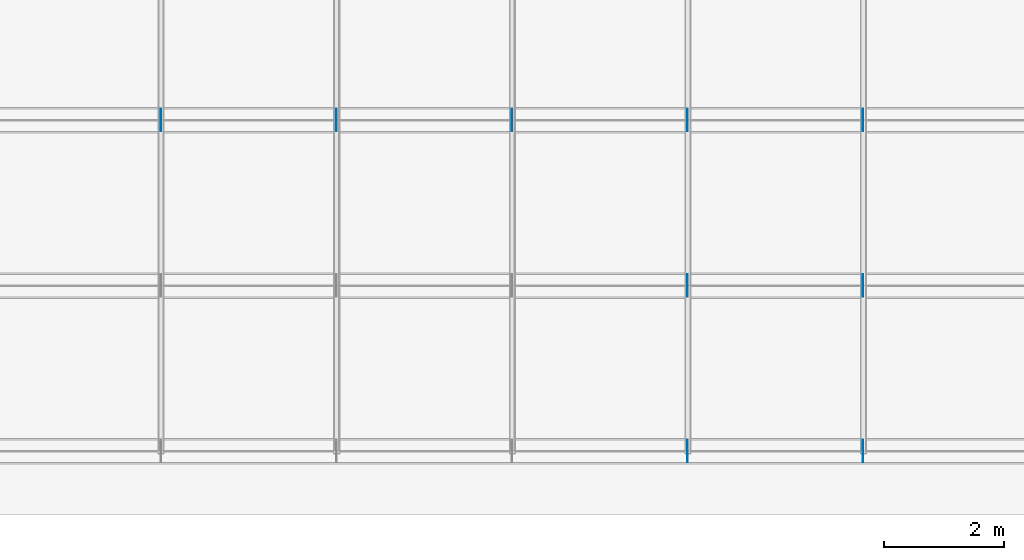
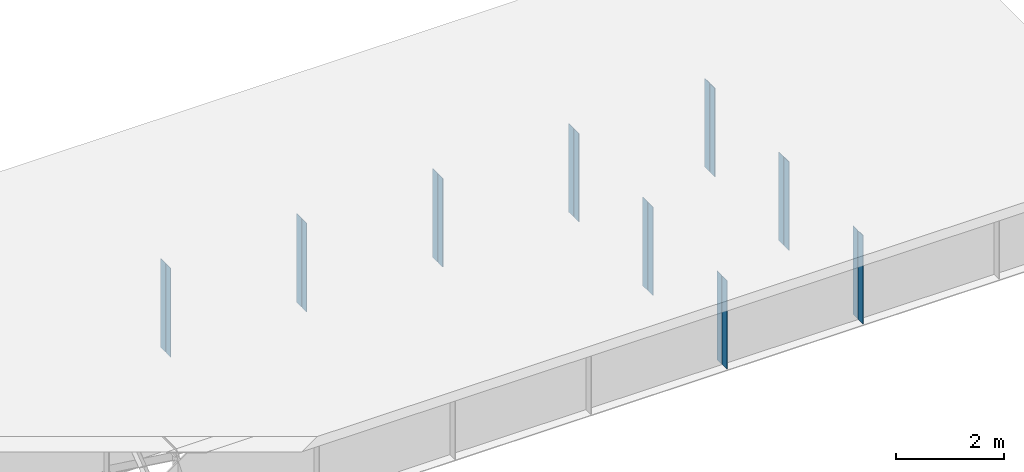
# One storey, part 10 of 13: 18 plates.
"""IFC4 building model written with IfcOpenShell, lengths in metres."""

import ifcopenshell
import ifcopenshell.guid

model = None  # the IFC model being written
_history = None  # IfcOwnerHistory: only IFC2X3 demands one
_inside = {}  # id of a spatial element -> (the spatial element, [elements in it])
_under = {}  # id of a project, library or spatial element -> (it, [spatial elements below it])
_declared = {}  # id of a project -> (the project, [libraries it declares])
_typed = {}  # id of a type object -> (the type object, [elements of that type])
_made_of = {}  # id of a material, layer set ... -> (it, [elements and type objects made of it])


def new_model(schema):
    """Start an empty IFC model of exactly this schema.

    Asked for "IFC4X3", IfcOpenShell would pick the latest addendum, in which some entities
    have other attributes; the version numbers below select the first issue.
    IFC2X3 requires an IfcOwnerHistory on every rooted entity: one is made here for all.
    """
    global model, _history
    if schema == "IFC4X3":
        model = ifcopenshell.file(schema_version=(4, 3, 0, 0))
    else:
        model = ifcopenshell.file(schema=schema)
    _inside.clear()
    _under.clear()
    _declared.clear()
    _typed.clear()
    _made_of.clear()
    _history = None
    if model.schema == "IFC2X3":
        org = make("IfcOrganization", Name="unknown")
        user = make(
            "IfcPersonAndOrganization",
            ThePerson=make("IfcPerson", FamilyName="unknown"),
            TheOrganization=org,
        )
        app = make(
            "IfcApplication",
            ApplicationDeveloper=org,
            Version="unknown",
            ApplicationFullName="unknown",
            ApplicationIdentifier="unknown",
        )
        _history = make(
            "IfcOwnerHistory",
            OwningUser=user,
            OwningApplication=app,
            ChangeAction="ADDED",
            CreationDate=0,
        )
    return model


def make(cls, **values):
    """One entity of the class cls with the attributes given. An attribute that is None is left unset."""
    return model.create_entity(
        cls, **{name: value for name, value in values.items() if value is not None}
    )


def rooted(cls, **values):
    """An entity with a GlobalId (a new one), such as an element, a storey or a relation."""
    return make(cls, GlobalId=ifcopenshell.guid.new(), OwnerHistory=_history, **values)


def si_unit(unit_type, name, prefix=None):
    """IfcSIUnit, for example si_unit("LENGTHUNIT", "METRE", prefix="MILLI")."""
    return make("IfcSIUnit", UnitType=unit_type, Prefix=prefix, Name=name)


def assignment(units):
    """IfcUnitAssignment: the units of a project."""
    return None if units is None else make("IfcUnitAssignment", Units=units)


def point(xyz):
    """IfcCartesianPoint."""
    return None if xyz is None else make("IfcCartesianPoint", Coordinates=xyz)


def direction(xyz):
    """IfcDirection."""
    return None if xyz is None else make("IfcDirection", DirectionRatios=xyz)


def frame(location, z_axis=None, x_axis=None):
    """IfcAxis2Placement3D, a coordinate frame: its origin and axes. An axis left out is left unset."""
    return make(
        "IfcAxis2Placement3D",
        Location=point(location),
        Axis=direction(z_axis),
        RefDirection=direction(x_axis),
    )


def frame_2d(location, x_axis=None):
    """IfcAxis2Placement2D, a coordinate frame in the plane: its origin and x axis."""
    return make(
        "IfcAxis2Placement2D", Location=point(location), RefDirection=direction(x_axis)
    )


def origin():
    """The frame at (0, 0, 0) with its axes left unset."""
    return frame((0.0, 0.0, 0.0))


def origin_with_axes():
    """The frame at (0, 0, 0) with the z axis (0, 0, 1) and the x axis (1, 0, 0) written out."""
    return frame((0.0, 0.0, 0.0), z_axis=(0.0, 0.0, 1.0), x_axis=(1.0, 0.0, 0.0))


def origin_2d_with_axis():
    """The frame at (0, 0) in the plane with the x axis (1, 0) written out."""
    return frame_2d((0.0, 0.0), x_axis=(1.0, 0.0))


def place(relative_to, where):
    """IfcLocalPlacement: puts the frame where relative to a parent placement (None: the world)."""
    return make(
        "IfcLocalPlacement", PlacementRelTo=relative_to, RelativePlacement=where
    )


def context(
    kind, dimensions, precision=None, world=None, true_north=None, identifier=None
):
    """IfcGeometricRepresentationContext, for example the 3D "Model" context."""
    return make(
        "IfcGeometricRepresentationContext",
        ContextIdentifier=identifier,
        ContextType=kind,
        CoordinateSpaceDimension=dimensions,
        Precision=precision,
        WorldCoordinateSystem=world,
        TrueNorth=true_north,
    )


def subcontext(parent, identifier, kind, view, scale=None):
    """IfcGeometricRepresentationSubContext, for example "Body" below "Model"."""
    return make(
        "IfcGeometricRepresentationSubContext",
        ContextIdentifier=identifier,
        ContextType=kind,
        ParentContext=parent,
        TargetScale=scale,
        TargetView=view,
    )


def project(units=None, contexts=None):
    """IfcProject with its units and contexts."""
    return rooted(
        "IfcProject",
        Name="project",
        RepresentationContexts=contexts,
        UnitsInContext=assignment(units),
    )


def spatial(cls, under=None, at=None, **own):
    """A site, building, storey or space (cls), placed at a placement, below another one or the project."""
    s = rooted(cls, ObjectPlacement=at, **own)
    if under is not None:
        _under.setdefault(under.id(), (under, []))[1].append(s)
    return s


def profile(cls, at=None, kind="AREA", **sizes):
    """A parametric profile (cls). Its sizes go by their IFC names, for example OverallWidth=200.0."""
    return make(cls, ProfileType=kind, Position=at, **sizes)


def rectangle(**sizes):
    """IfcRectangleProfileDef."""
    return profile("IfcRectangleProfileDef", **sizes)


def extrude(swept, where, along, depth):
    """IfcExtrudedAreaSolid: the profile swept, set in the frame where, extruded along a direction by depth."""
    return make(
        "IfcExtrudedAreaSolid",
        SweptArea=swept,
        Position=where,
        ExtrudedDirection=direction(along),
        Depth=depth,
    )


def shape(context_of_items, identifier, shape_type, items):
    """IfcShapeRepresentation: the items that make up one representation, for example the "Body"."""
    return make(
        "IfcShapeRepresentation",
        ContextOfItems=context_of_items,
        RepresentationIdentifier=identifier,
        RepresentationType=shape_type,
        Items=items,
    )


def made_of(thing, what):
    """Note that an element or type object is made of a material, layer set ...; save() writes the relation."""
    if what is not None:
        _made_of.setdefault(what.id(), (what, []))[1].append(thing)
    return thing


def element(
    cls,
    number,
    at=None,
    inside=None,
    cuts=None,
    type_object=None,
    material=None,
    context=None,
    identifier="Body",
    shape_type=None,
    held_by="IfcProductDefinitionShape",
    body=None,
    shapes=None,
    **own,
):
    """One element of the class cls, such as IfcWall. Its Tag is "e" and its number.

    at: its placement. inside: the storey or other place that contains it. cuts: it is an
    opening in that element (IfcRelVoidsElement). A single representation is given by context,
    identifier, shape_type and body (its items); several are given by shapes. held_by: the class
    of the entity that holds the representations. save() writes the other relations.
    """
    e = rooted(cls, Tag="e%d" % number, ObjectPlacement=at, **own)
    if body is not None:
        shapes = [shape(context, identifier, shape_type, body)]
    if shapes is not None:
        e.Representation = make(held_by, Representations=shapes)
    if inside is not None:
        _inside.setdefault(inside.id(), (inside, []))[1].append(e)
    if cuts is not None:
        rooted(
            "IfcRelVoidsElement", RelatingBuildingElement=cuts, RelatedOpeningElement=e
        )
    if type_object is not None:
        _typed.setdefault(type_object.id(), (type_object, []))[1].append(e)
    return made_of(e, material)


def aggregate(whole, parts):
    """IfcRelAggregates: a whole, such as a stair, and the parts it consists of."""
    return rooted("IfcRelAggregates", RelatingObject=whole, RelatedObjects=parts)


def save(model, path):
    """Write the relations noted so far, then the file.

    IfcRelAggregates (storeys below a building ...), IfcRelContainedInSpatialStructure (elements
    in a storey), IfcRelDefinesByType, IfcRelAssociatesMaterial and IfcRelDeclares: one each for
    every whole, place, type object, material and project.
    """
    for whole, parts in _under.values():
        aggregate(whole, parts)
    for where, things in _inside.values():
        rooted(
            "IfcRelContainedInSpatialStructure",
            RelatedElements=things,
            RelatingStructure=where,
        )
    for kind, things in _typed.values():
        rooted("IfcRelDefinesByType", RelatedObjects=things, RelatingType=kind)
    for what, things in _made_of.values():
        rooted("IfcRelAssociatesMaterial", RelatedObjects=things, RelatingMaterial=what)
    for by, libraries in _declared.values():
        rooted("IfcRelDeclares", RelatingContext=by, RelatedDefinitions=libraries)
    model.write(path)


model = new_model("IFC4")

# Units and contexts
model_context = context("Model", 3, precision=1e-05, world=origin())
body_context = subcontext(model_context, "Body", "Model", "MODEL_VIEW")
ifc_project = project(units=[si_unit("LENGTHUNIT", "METRE"), si_unit("AREAUNIT", "SQUARE_METRE"), si_unit("VOLUMEUNIT", "CUBIC_METRE"), si_unit("PLANEANGLEUNIT", "RADIAN")], contexts=[model_context])

# Site, building, storey
site_placement = place(None, origin_with_axes())
site = spatial("IfcSite", under=ifc_project, at=site_placement, Name="Default Site")
building_placement = place(site_placement, origin_with_axes())
building = spatial("IfcBuilding", under=site, at=building_placement, Name="Bridge Structure")
storey_placement = place(building_placement, origin_with_axes())
storey = spatial("IfcBuildingStorey", under=building, at=storey_placement, Name="Superstructure")

# Plates
for number, where, z_axis, x_axis, name in (
    (1, (26.244, -4.02675, -1.005), (0.0, 0.0, 1.0), (1.0, 0.0, 0.0), "Intermediate Stiffener 1"),
    (2, (26.244, -4.22325, -1.005), (0.0, 0.0, 1.0), (1.0, 0.0, 0.0), "Intermediate Stiffener 1"),
    (3, (29.16, -4.02675, -1.005), (0.0, 0.0, 1.0), (1.0, 0.0, 0.0), "Intermediate Stiffener 1"),
    (4, (29.16, -4.22325, -1.005), (0.0, 0.0, 1.0), (1.0, 0.0, 0.0), "Intermediate Stiffener 1"),
    (5, (26.244, -1.27675, -1.005), (0.0, 0.0, 1.0), (1.0, 0.0, 0.0), "Intermediate Stiffener 2"),
    (6, (26.244, -1.47325, -1.005), (0.0, 0.0, 1.0), (1.0, 0.0, 0.0), "Intermediate Stiffener 2"),
    (7, (29.16, -1.27675, -1.005), (0.0, 0.0, 1.0), (1.0, 0.0, 0.0), "Intermediate Stiffener 2"),
    (8, (29.16, -1.47325, -1.005), (0.0, 0.0, 1.0), (1.0, 0.0, 0.0), "Intermediate Stiffener 2"),
    (9, (17.496, 1.47325, -1.005), (0.0, 0.0, 1.0), (1.0, 0.0, 0.0), "Intermediate Stiffener 3"),
    (10, (17.496, 1.27675, -1.005), (0.0, 0.0, 1.0), (1.0, 0.0, 0.0), "Intermediate Stiffener 3"),
    (11, (20.412, 1.47325, -1.005), (0.0, 0.0, 1.0), (1.0, 0.0, 0.0), "Intermediate Stiffener 3"),
    (12, (20.412, 1.27675, -1.005), (0.0, 0.0, 1.0), (1.0, 0.0, 0.0), "Intermediate Stiffener 3"),
    (13, (23.328, 1.47325, -1.005), (0.0, 0.0, 1.0), (1.0, 0.0, 0.0), "Intermediate Stiffener 3"),
    (14, (23.328, 1.27675, -1.005), (0.0, 0.0, 1.0), (1.0, 0.0, 0.0), "Intermediate Stiffener 3"),
    (15, (26.244, 1.47325, -1.005), (0.0, 0.0, 1.0), (1.0, 0.0, 0.0), "Intermediate Stiffener 3"),
    (16, (26.244, 1.27675, -1.005), (0.0, 0.0, 1.0), (1.0, 0.0, 0.0), "Intermediate Stiffener 3"),
    (17, (29.16, 1.47325, -1.005), (0.0, 0.0, 1.0), (1.0, 0.0, 0.0), "Intermediate Stiffener 3"),
    (18, (29.16, 1.27675, -1.005), (0.0, 0.0, 1.0), (1.0, 0.0, 0.0), "Intermediate Stiffener 3"),
):
    element("IfcPlate", number, at=place(storey_placement, frame(where, z_axis=z_axis, x_axis=x_axis)), inside=storey, Name=name, context=body_context, shape_type="SweptSolid", body=[
        extrude(rectangle(XDim=0.012, YDim=0.1785, at=origin_2d_with_axis()), origin_with_axes(), (0.0, 0.0, 1.0), 2.01),
    ])

save(model, "model.ifc")
